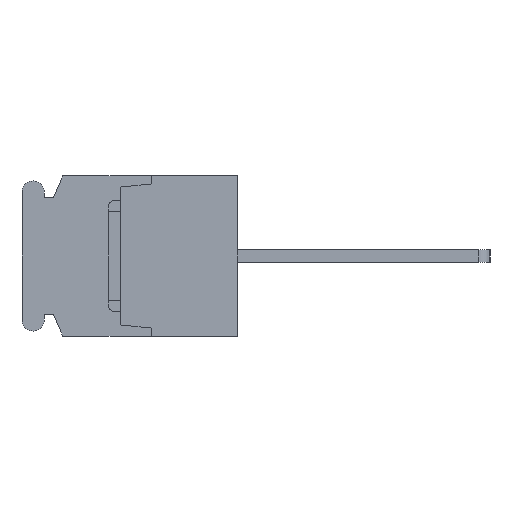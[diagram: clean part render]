
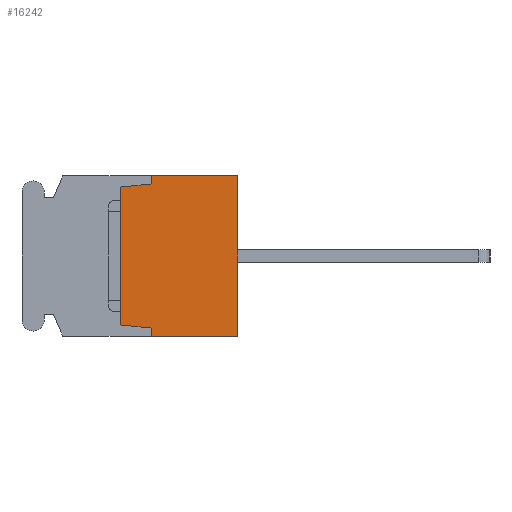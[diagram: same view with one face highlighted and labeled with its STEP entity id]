
A CAD part, left-side view. The second image highlights one B-rep face of the part: STEP entity #16242.
In plain terms, the highlighted planar face has unit normal (-1, 0, 0).
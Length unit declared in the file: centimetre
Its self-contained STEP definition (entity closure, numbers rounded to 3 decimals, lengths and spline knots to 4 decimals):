
#1446=VERTEX_POINT('',#23073);
#1447=VERTEX_POINT('',#23074);
#1448=VERTEX_POINT('',#23076);
#1449=VERTEX_POINT('',#23078);
#1450=VERTEX_POINT('',#23080);
#1451=VERTEX_POINT('',#23082);
#1452=VERTEX_POINT('',#23084);
#1453=VERTEX_POINT('',#23086);
#3208=VECTOR('',#18444,1.);
#3209=VECTOR('',#18445,1.);
#3210=VECTOR('',#18446,1.);
#3211=VECTOR('',#18447,1.);
#3212=VECTOR('',#18448,1.);
#3213=VECTOR('',#18449,1.);
#3214=VECTOR('',#18450,1.);
#3215=VECTOR('',#18451,1.);
#5064=LINE('',#23072,#3208);
#5065=LINE('',#23075,#3209);
#5066=LINE('',#23077,#3210);
#5067=LINE('',#23079,#3211);
#5068=LINE('',#23081,#3212);
#5069=LINE('',#23083,#3213);
#5070=LINE('',#23085,#3214);
#5071=LINE('',#23087,#3215);
#7050=EDGE_CURVE('',#1446,#1447,#5064,.T.);
#7051=EDGE_CURVE('',#1448,#1446,#5065,.T.);
#7052=EDGE_CURVE('',#1449,#1448,#5066,.T.);
#7053=EDGE_CURVE('',#1450,#1449,#5067,.T.);
#7054=EDGE_CURVE('',#1451,#1450,#5068,.T.);
#7055=EDGE_CURVE('',#1452,#1451,#5069,.T.);
#7056=EDGE_CURVE('',#1453,#1452,#5070,.T.);
#7057=EDGE_CURVE('',#1447,#1453,#5071,.T.);
#10182=ORIENTED_EDGE('',*,*,#7050,.F.);
#10183=ORIENTED_EDGE('',*,*,#7051,.F.);
#10184=ORIENTED_EDGE('',*,*,#7052,.F.);
#10185=ORIENTED_EDGE('',*,*,#7053,.F.);
#10186=ORIENTED_EDGE('',*,*,#7054,.F.);
#10187=ORIENTED_EDGE('',*,*,#7055,.F.);
#10188=ORIENTED_EDGE('',*,*,#7056,.F.);
#10189=ORIENTED_EDGE('',*,*,#7057,.F.);
#14159=EDGE_LOOP('',(#10182,#10183,#10184,#10185,#10186,#10187,#10188,#10189));
#15215=FACE_BOUND('',#14159,.T.);
#16242=ADVANCED_FACE('',(#15215),#17119,.F.);
#17119=PLANE('',#27769);
#18443=DIRECTION('',(1.,0.,0.));
#18444=DIRECTION('',(0.,0.,-1.));
#18445=DIRECTION('',(0.,-1.,0.));
#18446=DIRECTION('',(0.,0.,1.));
#18447=DIRECTION('',(0.,-0.995,0.1));
#18448=DIRECTION('',(0.,0.,1.));
#18449=DIRECTION('',(0.,0.995,0.1));
#18450=DIRECTION('',(0.,0.,1.));
#18451=DIRECTION('',(0.,1.,0.));
#23071=CARTESIAN_POINT('',(-1.84,0.4626,0.));
#23072=CARTESIAN_POINT('',(-1.84,0.,0.65));
#23073=CARTESIAN_POINT('',(-1.84,0.,0.65));
#23074=CARTESIAN_POINT('',(-1.84,0.,-0.65));
#23075=CARTESIAN_POINT('',(-1.84,0.7,0.65));
#23076=CARTESIAN_POINT('',(-1.84,0.7,0.65));
#23077=CARTESIAN_POINT('',(-1.84,0.7,0.585));
#23078=CARTESIAN_POINT('',(-1.84,0.7,0.585));
#23079=CARTESIAN_POINT('',(-1.84,0.95,0.56));
#23080=CARTESIAN_POINT('',(-1.84,0.95,0.56));
#23081=CARTESIAN_POINT('',(-1.84,0.95,-0.56));
#23082=CARTESIAN_POINT('',(-1.84,0.95,-0.56));
#23083=CARTESIAN_POINT('',(-1.84,0.7,-0.585));
#23084=CARTESIAN_POINT('',(-1.84,0.7,-0.585));
#23085=CARTESIAN_POINT('',(-1.84,0.7,-0.65));
#23086=CARTESIAN_POINT('',(-1.84,0.7,-0.65));
#23087=CARTESIAN_POINT('',(-1.84,0.,-0.65));
#27769=AXIS2_PLACEMENT_3D('',#23071,#18443,$);
